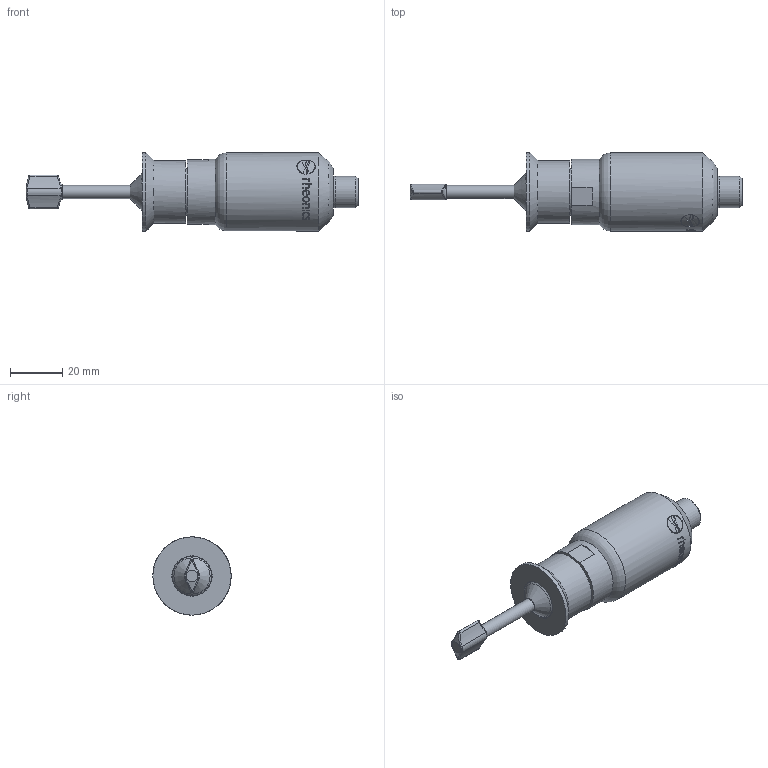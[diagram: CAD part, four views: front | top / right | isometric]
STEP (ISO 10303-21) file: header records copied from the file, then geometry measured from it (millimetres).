
FILE_DESCRIPTION(/* description */ ('Unknown'),/* implementation_level */ '2;1');
FILE_NAME(/* name */ 'SRD-X1-12G_HAW-12G-MTN',/* time_stamp */ '2023-06-05T11:32:17-05:00',/* author */ ('Unknown'),/* organization */ ('Unknown'),/* preprocessor_version */ 'ST-DEVELOPER v16.7',/* originating_system */ 'Solid Edge',/* authorisation */ 'Unknown');
FILE_SCHEMA (('AUTOMOTIVE_DESIGN {1 0 10303 214 3 1 1}'));
Length unit declared in the file: millimetre
Products named in the file (3): SRD-X1-12G_HAW-12G-MTN; HAW-12G-MTN; SRD_G0.5_A
Assembly tree (2 placements, depth 2):
  SRD-X1-12G_HAW-12G-MTN
    HAW-12G-MTN
    SRD_G0.5_A
Bounding box: 127.35 x 30 x 30 mm (x, y, z)
Volume: 46620.3 mm3; surface area: 11931.6 mm2
Topology: 2 solids, 2 shells, 216 faces, 551 edges, 348 vertices
Faces by surface type: bspline 83, cylinder 56, plane 41, cone 16, torus 12, sphere 8
Full cylindrical faces by diameter (mm): 0.8 x8, 2 x1, 5.019 x1, 8 x1, 12 x2, 13.9 x1, 18 x1, 18.631 x1, 20.955 x1, 24 x1, 25 x1, 30 x2
Entity records: 9508 total; most frequent: CARTESIAN_POINT 5252, ORIENTED_EDGE 946, DIRECTION 608, EDGE_CURVE 473, VERTEX_POINT 323, EDGE_LOOP 282, FACE_BOUND 282, B_SPLINE_CURVE_WITH_KNOTS 235
